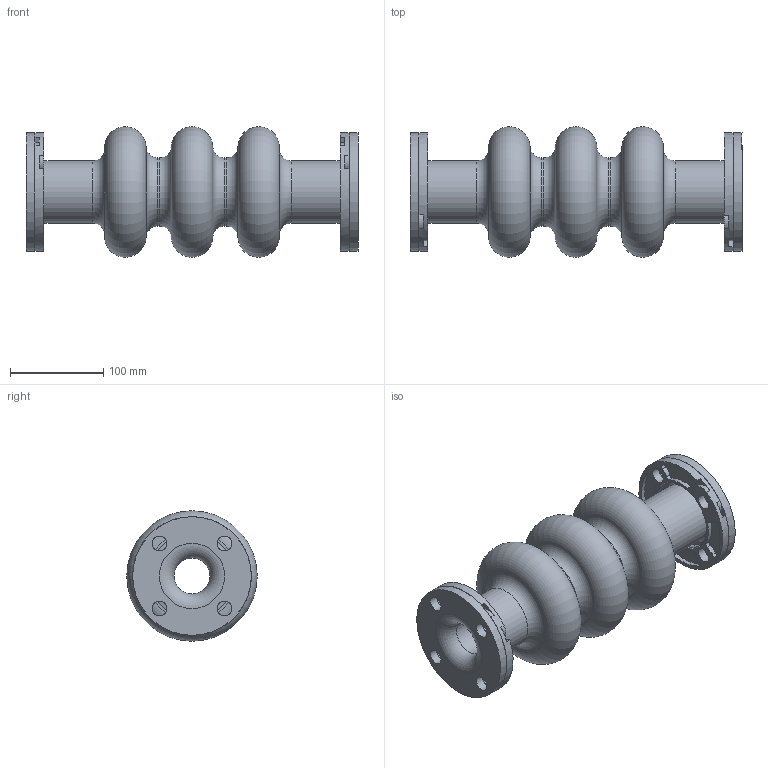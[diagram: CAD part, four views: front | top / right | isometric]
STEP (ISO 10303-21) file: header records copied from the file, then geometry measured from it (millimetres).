
FILE_DESCRIPTION(/* description */ (''),/* implementation_level */ '2;1');
FILE_NAME(/* name */ 'C:\001_Work\Designs\Mercer2014\MQInventor2014\RajR\500 Style\503\New folder\503 1.5IDx14FF.stp',/* time_stamp */ '2016-03-26T18:12:27-04:00',/* author */ ('rramoutar'),/* organization */ ('Mason Industries Inc.'),/* preprocessor_version */ 'ST-DEVELOPER v15.6',/* originating_system */ 'Autodesk Inventor 2015',/* authorisation */ '');
FILE_SCHEMA (('CONFIG_CONTROL_DESIGN'));
Length unit declared in the file: inch
Products named in the file (1): 503 1.5IDx14FF
Bounding box: 355.6 x 139.66 x 139.66 mm (x, y, z)
Volume: 2002519.8 mm3; surface area: 338007.2 mm2
Topology: 3 solids, 3 shells, 190 faces, 500 edges, 322 vertices
Faces by surface type: cylinder 102, plane 52, torus 24, cone 12
Full cylindrical faces by diameter (mm): 15.875 x16, 38.1 x4, 66.675 x2, 73.025 x2, 76.2 x2, 127 x4
Entity records: 6028 total; most frequent: CARTESIAN_POINT 1107, DIRECTION 1058, ORIENTED_EDGE 868, AXIS2_PLACEMENT_3D 449, EDGE_CURVE 434, VERTEX_POINT 314, EDGE_LOOP 292, CIRCLE 258
